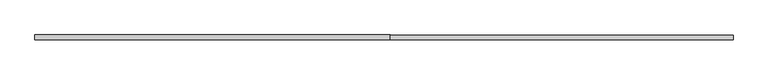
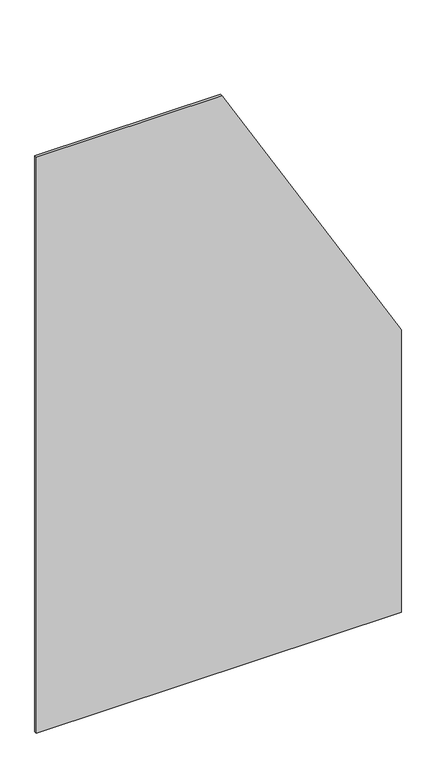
"""IFC4 building model written with IfcOpenShell, lengths in millimetres: plate geometry, 系統嵌板 : 玻璃 1.0cm."""

from ifc_helpers import new_model, si_unit, frame, origin, place, context, project, spatial, polyline, outline, extrude, source, transform, mapped, element, save


def plate_d7e51805(model_context):
    return source(origin(), model_context, "Body", "SweptSolid", [
        extrude(outline(polyline([(0.0, -750.0), (0.0, 750.0), (1225.0092524, 750.0), (2500.0, 13.8837487), (2500.0, -750.0), (0.0, -750.0)])), frame((0.0, -5.0, 0.0), z_axis=(0.0, 1.0, 0.0), x_axis=(0.0, 0.0, 1.0)), (0.0, 0.0, 1.0), 10.0),
    ])


if __name__ == "__main__":
    model = new_model("IFC4")
    model_context = context("Model", 3, world=origin())
    ifc_project = project(units=[si_unit("LENGTHUNIT", "METRE", prefix="MILLI")], contexts=[model_context])
    site = spatial("IfcSite", under=ifc_project)
    building = spatial("IfcBuilding", under=site)
    placement = place(None, origin())
    plate_shape = plate_d7e51805(model_context)
    element("IfcPlate", 1, ObjectType="系統嵌板 : 玻璃 1.0cm", at=placement, inside=building, context=model_context, shape_type="MappedRepresentation", body=[
        mapped(plate_shape, transform((0.0, 0.0, 0.0), x_axis=(1.0, 0.0, 0.0), y_axis=(0.0, 1.0, 0.0), z_axis=(0.0, 0.0, 1.0))),
    ])
    save(model, "model.ifc")
